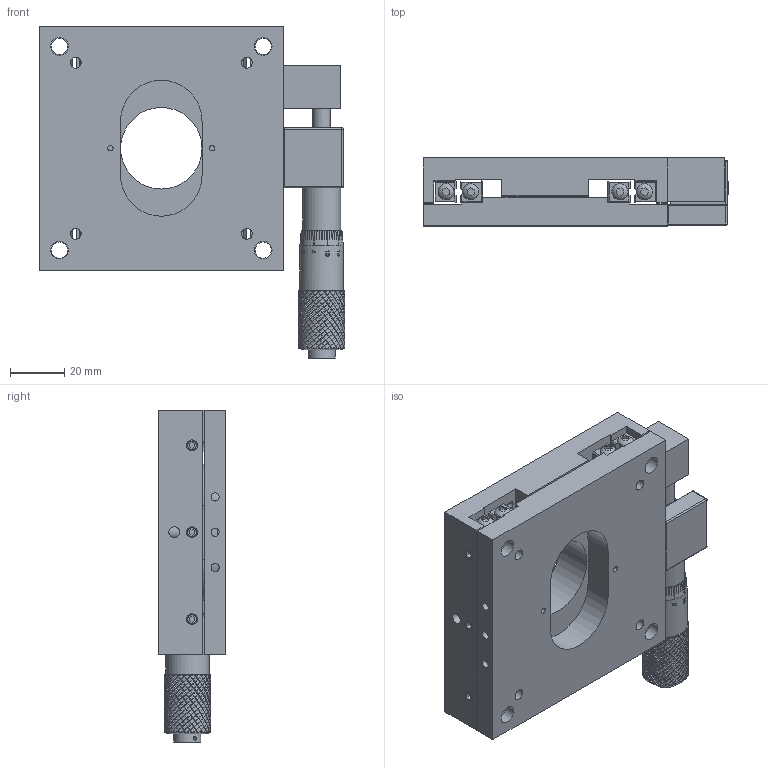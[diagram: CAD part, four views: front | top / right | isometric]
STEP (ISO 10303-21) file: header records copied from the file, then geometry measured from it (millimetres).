
FILE_DESCRIPTION (( 'STEP AP203' ), '1' );
FILE_NAME ('TSS90HX-1.step', '2017-01-10T09:22:33', ( '¦K¬P' ), ( '' ), 'SwSTEP 2.0', 'SolidWorks 2012', '' );
FILE_SCHEMA (( 'CONFIG_CONTROL_DESIGN' ));
Products named in the file (1): TSS90HX-1
Bounding box: 112.6 x 25 x 122.2 mm (x, y, z)
Surface area: 63733.6 mm2 (no closed solid volume)
Topology: 0 solids, 80 shells, 2003 faces, 7253 edges, 5202 vertices
Faces by surface type: bspline 1022, cylinder 655, plane 288, cone 23, torus 8, sphere 7
Full cylindrical faces by diameter (mm): 1.4 x1, 2 x6, 3 x10, 4 x19, 5.4 x2, 6 x24, 6.5 x5, 8 x1, 10 x2, 11 x4, 14.8 x1, 16 x1, 30 x1
Entity records: 189613 total; most frequent: CARTESIAN_POINT 144909, ORIENTED_EDGE 12412, EDGE_CURVE 7117, VERTEX_POINT 5171, DIRECTION 4596, B_SPLINE_CURVE_WITH_KNOTS 2675, EDGE_LOOP 2345, FACE_OUTER_BOUND 2088
